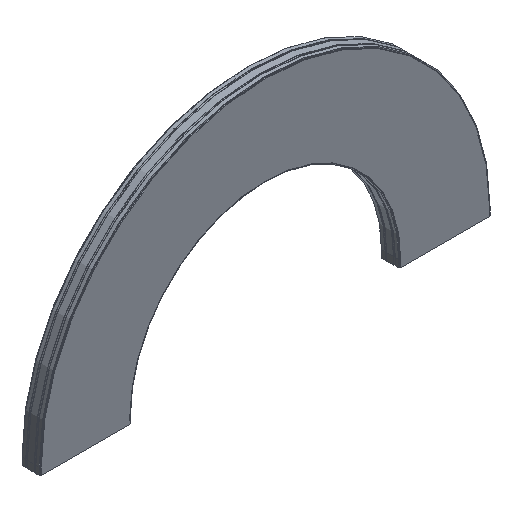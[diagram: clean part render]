
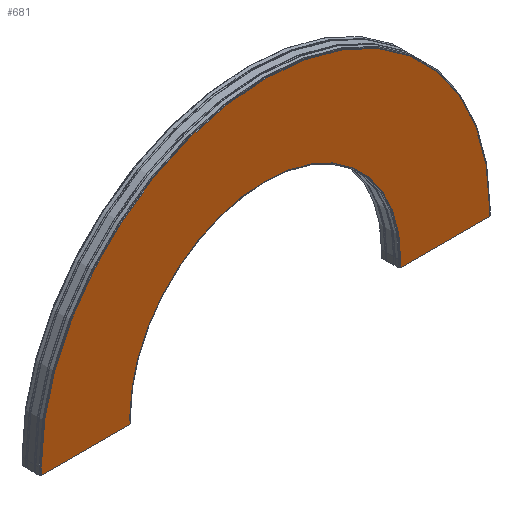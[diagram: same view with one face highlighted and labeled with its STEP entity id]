
A CAD part, isometric view. The second image highlights one B-rep face of the part: STEP entity #681.
In plain terms, the highlighted planar face has unit normal (0, -1, 0).
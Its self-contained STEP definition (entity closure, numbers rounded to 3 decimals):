
#52 = VECTOR ( 'NONE', #454, 1000. ) ;
#60 = CARTESIAN_POINT ( 'NONE',  ( -1597.5, -68.25, -52.5 ) ) ;
#81 = CARTESIAN_POINT ( 'NONE',  ( 0., -68.25, -52.5 ) ) ;
#118 = DIRECTION ( 'NONE',  ( 0., 1., 0. ) ) ;
#132 = VERTEX_POINT ( 'NONE', #2013 ) ;
#153 = VERTEX_POINT ( 'NONE', #1853 ) ;
#213 = CARTESIAN_POINT ( 'NONE',  ( -1597.5, -68.25, 0. ) ) ;
#236 = EDGE_CURVE ( 'NONE', #1518, #2325, #528, .T. ) ;
#265 = ORIENTED_EDGE ( 'NONE', *, *, #1635, .T. ) ;
#274 = DIRECTION ( 'NONE',  ( -1., 0., 0. ) ) ;
#344 = DIRECTION ( 'NONE',  ( 0., 1., 0. ) ) ;
#366 = VERTEX_POINT ( 'NONE', #523 ) ;
#388 = DIRECTION ( 'NONE',  ( 0., 0., 1. ) ) ;
#454 = DIRECTION ( 'NONE',  ( 0., 0., 1. ) ) ;
#467 = CIRCLE ( 'NONE', #1242, 1597.5 ) ;
#491 = CARTESIAN_POINT ( 'NONE',  ( 0., -68.25, -52.5 ) ) ;
#523 = CARTESIAN_POINT ( 'NONE',  ( -962.5, -68.25, -52.5 ) ) ;
#528 = LINE ( 'NONE', #81, #1684 ) ;
#530 = CARTESIAN_POINT ( 'NONE',  ( -962.5, -68.25, 0. ) ) ;
#541 = DIRECTION ( 'NONE',  ( -1., 0., 0. ) ) ;
#574 = CARTESIAN_POINT ( 'NONE',  ( 1597.5, -68.25, -52.5 ) ) ;
#681 = ADVANCED_FACE ( 'NONE', ( #1046 ), #1091, .F. ) ;
#753 = DIRECTION ( 'NONE',  ( 0., 0., 1. ) ) ;
#793 = CARTESIAN_POINT ( 'NONE',  ( -962.5, -68.25, 0. ) ) ;
#811 = VECTOR ( 'NONE', #753, 1000. ) ;
#899 = EDGE_CURVE ( 'NONE', #2325, #153, #2048, .T. ) ;
#912 = EDGE_CURVE ( 'NONE', #132, #1701, #2473, .T. ) ;
#937 = ORIENTED_EDGE ( 'NONE', *, *, #1255, .F. ) ;
#944 = CARTESIAN_POINT ( 'NONE',  ( 1597.5, -68.25, -52.5 ) ) ;
#960 = EDGE_CURVE ( 'NONE', #366, #132, #1207, .T. ) ;
#964 = LINE ( 'NONE', #1530, #2027 ) ;
#980 = CARTESIAN_POINT ( 'NONE',  ( 962.5, -68.25, -52.5 ) ) ;
#1030 = DIRECTION ( 'NONE',  ( 0., 0., 1. ) ) ;
#1046 = FACE_OUTER_BOUND ( 'NONE', #2353, .T. ) ;
#1091 = PLANE ( 'NONE',  #1261 ) ;
#1159 = VERTEX_POINT ( 'NONE', #2075 ) ;
#1207 = LINE ( 'NONE', #491, #2114 ) ;
#1242 = AXIS2_PLACEMENT_3D ( 'NONE', #1485, #344, #1531 ) ;
#1255 = EDGE_CURVE ( 'NONE', #1701, #1159, #467, .T. ) ;
#1261 = AXIS2_PLACEMENT_3D ( 'NONE', #530, #118, #541 ) ;
#1369 = ORIENTED_EDGE ( 'NONE', *, *, #236, .F. ) ;
#1485 = CARTESIAN_POINT ( 'NONE',  ( 0., -68.25, 0. ) ) ;
#1518 = VERTEX_POINT ( 'NONE', #574 ) ;
#1530 = CARTESIAN_POINT ( 'NONE',  ( -962.5, -68.25, -52.5 ) ) ;
#1531 = DIRECTION ( 'NONE',  ( -1., 0., 0. ) ) ;
#1577 = CARTESIAN_POINT ( 'NONE',  ( 962.5, -68.25, -52.5 ) ) ;
#1635 = EDGE_CURVE ( 'NONE', #366, #2324, #964, .T. ) ;
#1684 = VECTOR ( 'NONE', #274, 1000. ) ;
#1701 = VERTEX_POINT ( 'NONE', #213 ) ;
#1810 = DIRECTION ( 'NONE',  ( -1., 0., 0. ) ) ;
#1820 = LINE ( 'NONE', #944, #811 ) ;
#1835 = ORIENTED_EDGE ( 'NONE', *, *, #899, .F. ) ;
#1853 = CARTESIAN_POINT ( 'NONE',  ( 962.5, -68.25, 0. ) ) ;
#1949 = VECTOR ( 'NONE', #1030, 1000. ) ;
#2003 = ORIENTED_EDGE ( 'NONE', *, *, #912, .F. ) ;
#2013 = CARTESIAN_POINT ( 'NONE',  ( -1597.5, -68.25, -52.5 ) ) ;
#2015 = AXIS2_PLACEMENT_3D ( 'NONE', #2468, #2056, #2072 ) ;
#2027 = VECTOR ( 'NONE', #388, 1000. ) ;
#2048 = LINE ( 'NONE', #980, #52 ) ;
#2056 = DIRECTION ( 'NONE',  ( 0., 1., 0. ) ) ;
#2072 = DIRECTION ( 'NONE',  ( -1., 0., 0. ) ) ;
#2075 = CARTESIAN_POINT ( 'NONE',  ( 1597.5, -68.25, 0. ) ) ;
#2114 = VECTOR ( 'NONE', #1810, 1000. ) ;
#2140 = EDGE_CURVE ( 'NONE', #2324, #153, #2388, .T. ) ;
#2154 = EDGE_CURVE ( 'NONE', #1518, #1159, #1820, .T. ) ;
#2189 = ORIENTED_EDGE ( 'NONE', *, *, #960, .F. ) ;
#2287 = ORIENTED_EDGE ( 'NONE', *, *, #2140, .T. ) ;
#2324 = VERTEX_POINT ( 'NONE', #793 ) ;
#2325 = VERTEX_POINT ( 'NONE', #1577 ) ;
#2353 = EDGE_LOOP ( 'NONE', ( #2287, #1835, #1369, #2371, #937, #2003, #2189, #265 ) ) ;
#2371 = ORIENTED_EDGE ( 'NONE', *, *, #2154, .T. ) ;
#2388 = CIRCLE ( 'NONE', #2015, 962.5 ) ;
#2468 = CARTESIAN_POINT ( 'NONE',  ( 0., -68.25, 0. ) ) ;
#2473 = LINE ( 'NONE', #60, #1949 ) ;
